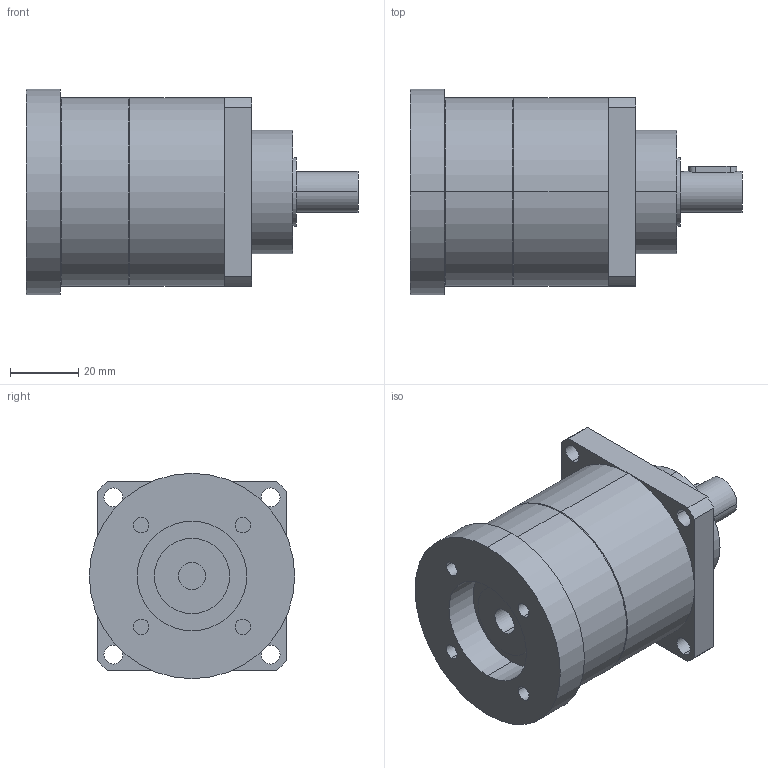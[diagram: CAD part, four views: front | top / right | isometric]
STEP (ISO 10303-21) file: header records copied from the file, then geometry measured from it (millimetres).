
FILE_DESCRIPTION(('CoCreate Modeling STEP Export'),'2;1');
FILE_NAME('GPT55_ig-3-4-5-7-10_12_B5A_8_P11.stp','2014-08-25T14:34:12',(''),(''),'CoCreate Modeling STEP processor for AP214 (Solid Model)','CoCreate Modeling 16.00C 25-Feb-2009 (C) Parametric Technology GmbH','');
FILE_SCHEMA(('AUTOMOTIVE_DESIGN { 1 0 10303 214 1 1 1 1 }'));
Length unit declared in the file: millimetre
Products named in the file (2): GPT55_ig-3-4-5-7-10_12_B5A_8_P11
Assembly tree (1 placements, depth 2):
  GPT55_ig-3-4-5-7-10_12_B5A_8_P11
    GPT55_ig-3-4-5-7-10_12_B5A_8_P11
Bounding box: 97 x 60 x 60 mm (x, y, z)
Volume: 171450.8 mm3; surface area: 23956.9 mm2
Topology: 1 solids, 1 shells, 72 faces, 181 edges, 124 vertices
Faces by surface type: cylinder 42, plane 26, cone 4
Entity records: 2242 total; most frequent: CARTESIAN_POINT 662, ORIENTED_EDGE 362, DIRECTION 268, EDGE_CURVE 181, VERTEX_POINT 124, AXIS2_PLACEMENT_3D 100, EDGE_LOOP 93, FACE_OUTER_BOUND 72
